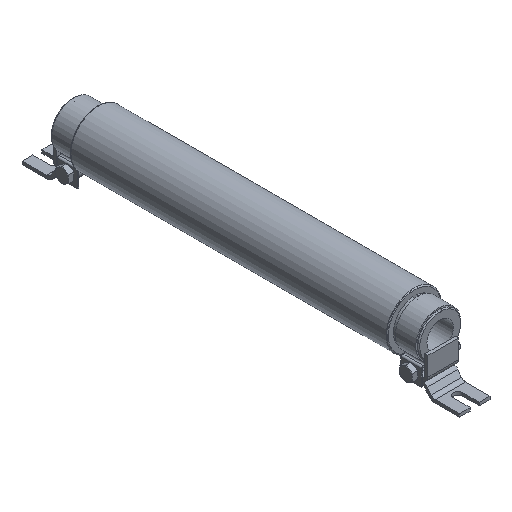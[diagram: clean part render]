
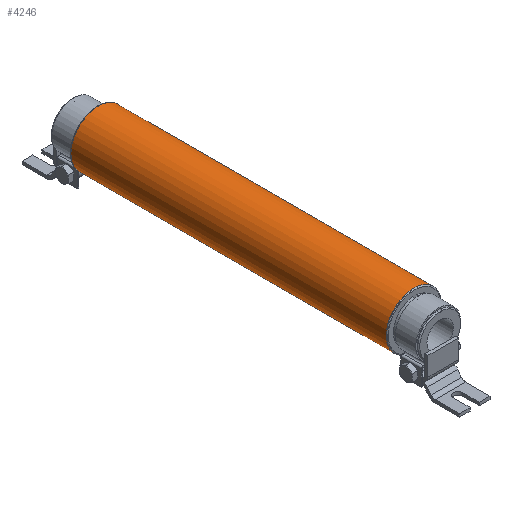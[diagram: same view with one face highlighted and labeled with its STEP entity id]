
A CAD part, isometric view. The second image highlights one B-rep face of the part: STEP entity #4246.
In plain terms, the highlighted cylindrical face has radius 27 mm (diameter 54 mm), a full revolution.
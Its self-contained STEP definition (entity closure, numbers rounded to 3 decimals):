
#505=CIRCLE('',#4901,27.);
#506=CIRCLE('',#4902,27.);
#684=ORIENTED_EDGE('',*,*,#2006,.T.);
#685=ORIENTED_EDGE('',*,*,#2007,.T.);
#2006=EDGE_CURVE('',#2674,#2674,#505,.T.);
#2007=EDGE_CURVE('',#2675,#2675,#506,.T.);
#2674=VERTEX_POINT('',#6242);
#2675=VERTEX_POINT('',#6244);
#3541=EDGE_LOOP('',(#684));
#3542=EDGE_LOOP('',(#685));
#3859=FACE_BOUND('',#3541,.T.);
#3860=FACE_BOUND('',#3542,.T.);
#4157=CYLINDRICAL_SURFACE('',#4900,27.);
#4246=ADVANCED_FACE('',(#3859,#3860),#4157,.T.);
#4900=AXIS2_PLACEMENT_3D('',#6240,#5338,#5339);
#4901=AXIS2_PLACEMENT_3D('',#6241,#5340,#5341);
#4902=AXIS2_PLACEMENT_3D('',#6243,#5342,#5343);
#5338=DIRECTION('',(0.,-1.,0.));
#5339=DIRECTION('',(0.,0.,-1.));
#5340=DIRECTION('',(0.,-1.,0.));
#5341=DIRECTION('',(0.,0.,-1.));
#5342=DIRECTION('',(0.,1.,0.));
#5343=DIRECTION('',(0.,0.,1.));
#6240=CARTESIAN_POINT('',(0.,-60.,0.));
#6241=CARTESIAN_POINT('',(0.,155.,0.));
#6242=CARTESIAN_POINT('',(0.,155.,-27.));
#6243=CARTESIAN_POINT('',(0.,-155.,0.));
#6244=CARTESIAN_POINT('',(0.,-155.,27.));
